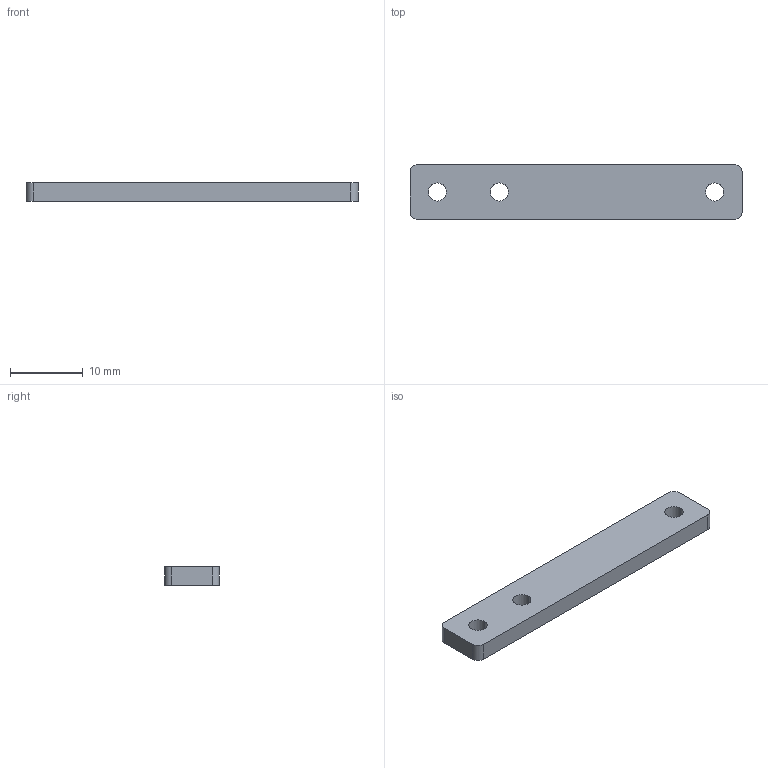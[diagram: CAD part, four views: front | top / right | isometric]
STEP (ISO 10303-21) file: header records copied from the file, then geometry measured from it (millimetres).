
FILE_DESCRIPTION (( 'STEP AP203' ), '1' );
FILE_NAME ('Gimbal Boom Plate (3 clamps RTU) v1.STEP', '2016-10-20T20:51:41', ( 'drhyoo' ), ( '' ), 'SwSTEP 2.0', 'SolidWorks 2016', '' );
FILE_SCHEMA (( 'CONFIG_CONTROL_DESIGN' ));
Length unit declared in the file: millimetre
Products named in the file (1): Gimbal Boom Plate (3 clamps RTU) v1
Bounding box: 45.5 x 7.5 x 2.5 mm (x, y, z)
Volume: 814.2 mm3; surface area: 970.9 mm2
Topology: 1 solids, 1 shells, 16 faces, 42 edges, 28 vertices
Faces by surface type: cylinder 10, plane 6
Entity records: 595 total; most frequent: DIRECTION 96, CARTESIAN_POINT 87, ORIENTED_EDGE 84, EDGE_CURVE 42, AXIS2_PLACEMENT_3D 37, VERTEX_POINT 28, LINE 22, EDGE_LOOP 22
